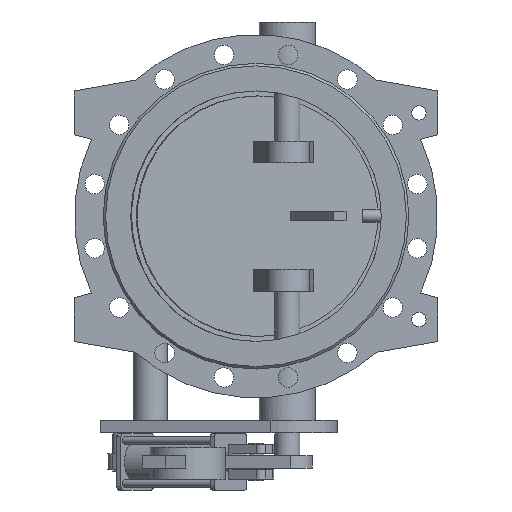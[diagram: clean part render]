
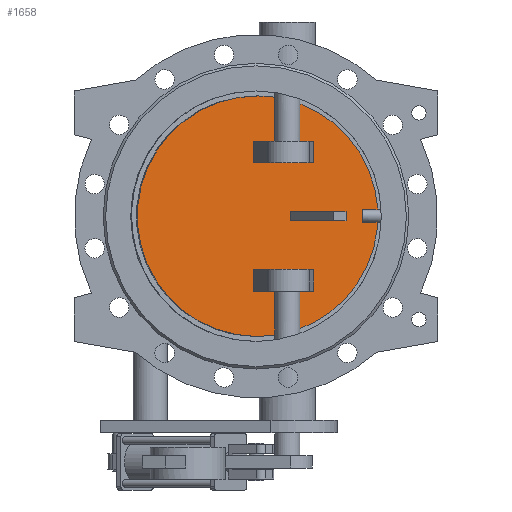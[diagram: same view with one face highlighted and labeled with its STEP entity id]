
A CAD part, front view. The second image highlights one B-rep face of the part: STEP entity #1658.
In plain terms, the highlighted planar face has unit normal (0.131, -0.991, 0).
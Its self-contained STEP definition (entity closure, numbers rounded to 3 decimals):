
#1658=ADVANCED_FACE('',(#3481,#3483,#3485,#3487),#3489,.T.);
#3481=FACE_BOUND('',#3482,.T.);
#3482=EDGE_LOOP('',(#4507));
#3483=FACE_BOUND('',#3484,.T.);
#3484=EDGE_LOOP('',(#4508,#4509,#4510,#4511));
#3485=FACE_BOUND('',#3486,.T.);
#3486=EDGE_LOOP('',(#4512,#4513,#4514,#4515));
#3487=FACE_BOUND('',#3488,.T.);
#3488=EDGE_LOOP('',(#4516,#4517,#4518,#4519));
#3489=PLANE('',#3490);
#3490=AXIS2_PLACEMENT_3D('',#3491,#3492,#3493);
#3491=CARTESIAN_POINT('',(-1.272,9.66,0.));
#3492=DIRECTION('',(0.131,-0.991,0.));
#3493=DIRECTION('',(0.,0.,-1.));
#4507=ORIENTED_EDGE('',*,*,#4972,.T.);
#4508=ORIENTED_EDGE('',*,*,#4974,.F.);
#4509=ORIENTED_EDGE('',*,*,#4975,.F.);
#4510=ORIENTED_EDGE('',*,*,#4976,.F.);
#4511=ORIENTED_EDGE('',*,*,#4977,.F.);
#4512=ORIENTED_EDGE('',*,*,#4978,.F.);
#4513=ORIENTED_EDGE('',*,*,#4979,.F.);
#4514=ORIENTED_EDGE('',*,*,#4980,.F.);
#4515=ORIENTED_EDGE('',*,*,#4981,.F.);
#4516=ORIENTED_EDGE('',*,*,#4982,.F.);
#4517=ORIENTED_EDGE('',*,*,#4983,.F.);
#4518=ORIENTED_EDGE('',*,*,#4984,.F.);
#4519=ORIENTED_EDGE('',*,*,#4985,.F.);
#4972=EDGE_CURVE('',#5696,#5696,#5697,.T.);
#4974=EDGE_CURVE('',#5700,#5701,#5702,.T.);
#4975=EDGE_CURVE('',#5703,#5700,#5704,.F.);
#4976=EDGE_CURVE('',#5705,#5703,#5706,.T.);
#4977=EDGE_CURVE('',#5701,#5705,#5707,.T.);
#4978=EDGE_CURVE('',#5708,#5709,#5710,.F.);
#4979=EDGE_CURVE('',#5711,#5708,#5712,.T.);
#4980=EDGE_CURVE('',#5713,#5711,#5714,.T.);
#4981=EDGE_CURVE('',#5709,#5713,#5715,.T.);
#4982=EDGE_CURVE('',#5716,#5717,#5718,.T.);
#4983=EDGE_CURVE('',#5719,#5716,#5720,.F.);
#4984=EDGE_CURVE('',#5721,#5719,#5722,.F.);
#4985=EDGE_CURVE('',#5717,#5721,#5723,.F.);
#5696=VERTEX_POINT('',#8970);
#5697=B_SPLINE_CURVE_WITH_KNOTS('',3,
(#8971,#8972,#8973,#8974,#8975,#8976,#8977,#8978,#8979,#8980,#8981,#8982,#8983,#8984,
#8985,#8986,#8987,#8988,#8989,#8990,#8991,#8992,#8993,#8994,#8995,#8996,#8997,#8998,
#8999,#9000,#9001,#9002,#9003,#9004,#9005,#9006,#9007,#9008,#9009,#9010,#9011,#9012,
#9013,#9014,#9015,#9016,#9017,#9018,#9019,#9020,#9021),
.UNSPECIFIED.,.T.,.F.,
(4,1,1,1,1,1,1,1,1,1,1,1,1,1,1,1,1,1,1,1,1,1,1,1,1,1,1,1,1,1,1,1,1,1,1,1,1,1,1,1,
1,1,1,1,1,1,1,1,4),
(0.,0.021,0.042,0.063,0.084,0.105,
0.126,0.147,0.168,0.189,0.211,
0.232,0.253,0.274,0.295,0.316,
0.337,0.358,0.379,0.4,0.421,
0.442,0.463,0.484,0.505,0.526,
0.548,0.569,0.59,0.611,0.632,
0.653,0.674,0.695,0.716,0.737,
0.758,0.779,0.8,0.821,0.843,
0.864,0.885,0.906,0.927,0.948,
0.969,0.986,1.),
.UNSPECIFIED.);
#5700=VERTEX_POINT('',#9074);
#5701=VERTEX_POINT('',#9075);
#5702=LINE('',#9076,#9077);
#5703=VERTEX_POINT('',#9079);
#5704=LINE('',#9080,#9081);
#5705=VERTEX_POINT('',#9083);
#5706=LINE('',#9084,#9085);
#5707=LINE('',#9087,#9088);
#5708=VERTEX_POINT('',#9090);
#5709=VERTEX_POINT('',#9091);
#5710=LINE('',#9092,#9093);
#5711=VERTEX_POINT('',#9095);
#5712=LINE('',#9096,#9097);
#5713=VERTEX_POINT('',#9099);
#5714=LINE('',#9100,#9101);
#5715=LINE('',#9103,#9104);
#5716=VERTEX_POINT('',#9106);
#5717=VERTEX_POINT('',#9107);
#5718=LINE('',#9108,#9109);
#5719=VERTEX_POINT('',#9111);
#5720=LINE('',#9112,#9113);
#5721=VERTEX_POINT('',#9115);
#5722=LINE('',#9116,#9117);
#5723=LINE('',#9119,#9120);
#8970=CARTESIAN_POINT('',(2.611,10.171,192.));
#8971=CARTESIAN_POINT('',(2.611,10.171,192.));
#8972=CARTESIAN_POINT('',(-5.823,9.061,192.));
#8973=CARTESIAN_POINT('',(-22.711,6.837,190.886));
#8974=CARTESIAN_POINT('',(-47.636,3.556,185.894));
#8975=CARTESIAN_POINT('',(-71.72,0.385,177.648));
#8976=CARTESIAN_POINT('',(-94.522,-2.617,166.288));
#8977=CARTESIAN_POINT('',(-115.624,-5.395,152.021));
#8978=CARTESIAN_POINT('',(-134.659,-7.901,135.094));
#8979=CARTESIAN_POINT('',(-151.295,-10.091,115.801));
#8980=CARTESIAN_POINT('',(-165.239,-11.927,94.481));
#8981=CARTESIAN_POINT('',(-176.246,-13.376,71.506));
#8982=CARTESIAN_POINT('',(-184.124,-14.413,47.279));
#8983=CARTESIAN_POINT('',(-188.733,-15.02,22.223));
#8984=CARTESIAN_POINT('',(-189.993,-15.186,-3.222));
#8985=CARTESIAN_POINT('',(-187.882,-14.908,-28.61));
#8986=CARTESIAN_POINT('',(-182.437,-14.191,-53.496));
#8987=CARTESIAN_POINT('',(-173.755,-13.048,-77.443));
#8988=CARTESIAN_POINT('',(-161.987,-11.499,-100.034));
#8989=CARTESIAN_POINT('',(-147.342,-9.57,-120.873));
#8990=CARTESIAN_POINT('',(-130.075,-7.297,-139.596));
#8991=CARTESIAN_POINT('',(-110.489,-4.719,-155.877));
#8992=CARTESIAN_POINT('',(-88.926,-1.88,-169.431));
#8993=CARTESIAN_POINT('',(-65.763,1.17,-180.023));
#8994=CARTESIAN_POINT('',(-41.405,4.376,-187.467));
#8995=CARTESIAN_POINT('',(-16.277,7.685,-191.633));
#8996=CARTESIAN_POINT('',(9.181,11.036,-192.449));
#8997=CARTESIAN_POINT('',(34.525,14.373,-189.9));
#8998=CARTESIAN_POINT('',(59.311,17.636,-184.03));
#8999=CARTESIAN_POINT('',(83.107,20.769,-174.942));
#9000=CARTESIAN_POINT('',(105.496,23.716,-162.794));
#9001=CARTESIAN_POINT('',(126.087,26.427,-147.798));
#9002=CARTESIAN_POINT('',(144.52,28.854,-130.215));
#9003=CARTESIAN_POINT('',(160.471,30.954,-110.353));
#9004=CARTESIAN_POINT('',(173.661,32.69,-88.558));
#9005=CARTESIAN_POINT('',(183.858,34.033,-65.212));
#9006=CARTESIAN_POINT('',(190.884,34.958,-40.724));
#9007=CARTESIAN_POINT('',(194.614,35.449,-15.522));
#9008=CARTESIAN_POINT('',(194.984,35.497,9.951));
#9009=CARTESIAN_POINT('',(191.986,35.103,35.249));
#9010=CARTESIAN_POINT('',(185.674,34.272,59.929));
#9011=CARTESIAN_POINT('',(176.16,33.019,83.558));
#9012=CARTESIAN_POINT('',(163.61,31.367,105.723));
#9013=CARTESIAN_POINT('',(148.246,29.344,126.037));
#9014=CARTESIAN_POINT('',(130.335,26.986,144.146));
#9015=CARTESIAN_POINT('',(110.196,24.335,159.729));
#9016=CARTESIAN_POINT('',(88.207,21.44,172.503));
#9017=CARTESIAN_POINT('',(64.684,18.343,182.29));
#9018=CARTESIAN_POINT('',(41.487,15.289,188.508));
#9019=CARTESIAN_POINT('',(20.631,12.544,191.462));
#9020=CARTESIAN_POINT('',(8.118,10.896,192.));
#9021=CARTESIAN_POINT('',(2.611,10.171,192.));
#9074=CARTESIAN_POINT('',(129.358,26.858,-7.5));
#9075=CARTESIAN_POINT('',(129.358,26.858,7.5));
#9076=CARTESIAN_POINT('',(129.358,26.858,-7.5));
#9077=VECTOR('',#9078,1.);
#9078=DIRECTION('',(0.,0.,1.));
#9079=CARTESIAN_POINT('',(55.,17.068,-7.5));
#9080=CARTESIAN_POINT('',(129.358,26.858,-7.5));
#9081=VECTOR('',#9082,1.);
#9082=DIRECTION('',(-0.991,-0.131,0.));
#9083=CARTESIAN_POINT('',(55.,17.068,7.5));
#9084=CARTESIAN_POINT('',(55.,17.068,7.5));
#9085=VECTOR('',#9086,1.);
#9086=DIRECTION('',(0.,0.,-1.));
#9087=CARTESIAN_POINT('',(129.358,26.858,7.5));
#9088=VECTOR('',#9089,1.);
#9089=DIRECTION('',(-0.991,-0.131,0.));
#9090=CARTESIAN_POINT('',(-4.154,9.281,-120.));
#9091=CARTESIAN_POINT('',(92.142,21.958,-120.));
#9092=CARTESIAN_POINT('',(92.142,21.958,-120.));
#9093=VECTOR('',#9094,1.);
#9094=DIRECTION('',(-0.991,-0.131,0.));
#9095=CARTESIAN_POINT('',(-4.154,9.281,-85.));
#9096=CARTESIAN_POINT('',(-4.154,9.281,-85.));
#9097=VECTOR('',#9098,1.);
#9098=DIRECTION('',(0.,0.,-1.));
#9099=CARTESIAN_POINT('',(92.142,21.958,-85.));
#9100=CARTESIAN_POINT('',(92.142,21.958,-85.));
#9101=VECTOR('',#9102,1.);
#9102=DIRECTION('',(-0.991,-0.131,0.));
#9103=CARTESIAN_POINT('',(92.142,21.958,-120.));
#9104=VECTOR('',#9105,1.);
#9105=DIRECTION('',(0.,0.,1.));
#9106=CARTESIAN_POINT('',(92.142,21.958,120.));
#9107=CARTESIAN_POINT('',(-4.154,9.281,120.));
#9108=CARTESIAN_POINT('',(92.142,21.958,120.));
#9109=VECTOR('',#9110,1.);
#9110=DIRECTION('',(-0.991,-0.131,0.));
#9111=CARTESIAN_POINT('',(92.142,21.958,85.));
#9112=CARTESIAN_POINT('',(92.142,21.958,120.));
#9113=VECTOR('',#9114,1.);
#9114=DIRECTION('',(0.,0.,-1.));
#9115=CARTESIAN_POINT('',(-4.154,9.281,85.));
#9116=CARTESIAN_POINT('',(92.142,21.958,85.));
#9117=VECTOR('',#9118,1.);
#9118=DIRECTION('',(-0.991,-0.131,0.));
#9119=CARTESIAN_POINT('',(-4.154,9.281,85.));
#9120=VECTOR('',#9121,1.);
#9121=DIRECTION('',(0.,0.,1.));
